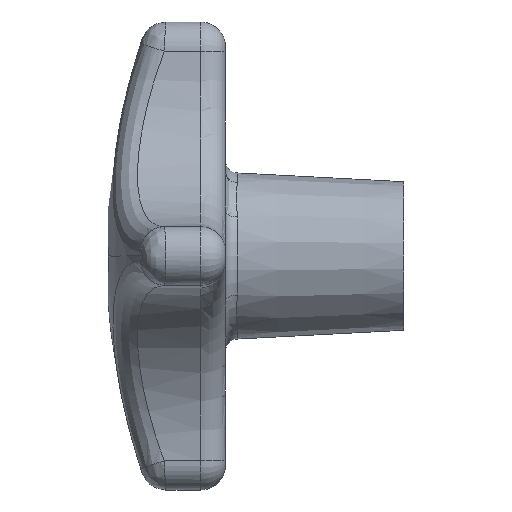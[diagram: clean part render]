
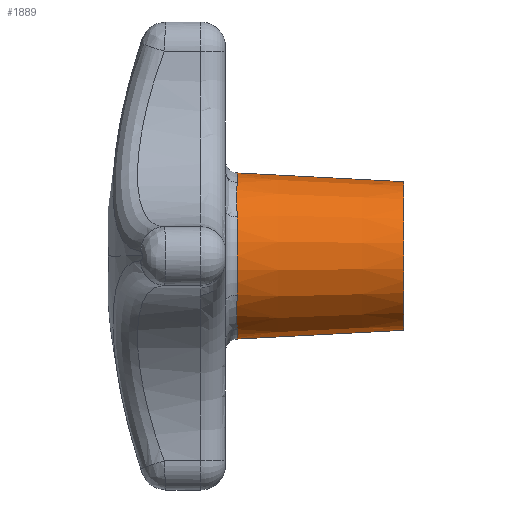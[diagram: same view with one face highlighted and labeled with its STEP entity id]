
A CAD part, left-side view. The second image highlights one B-rep face of the part: STEP entity #1889.
In plain terms, the highlighted conical face has half-angle 3 degrees and reference radius 10 mm.
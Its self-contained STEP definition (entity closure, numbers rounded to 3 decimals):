
#45 = EDGE_CURVE ( 'NONE', #518, #1778, #508, .T. ) ;
#66 = VECTOR ( 'NONE', #1463, 1000. ) ;
#81 = CARTESIAN_POINT ( 'NONE',  ( -5.256, -1.579, -9.862 ) ) ;
#101 = CARTESIAN_POINT ( 'NONE',  ( -7.091, -1.525, 8.658 ) ) ;
#113 = CARTESIAN_POINT ( 'NONE',  ( -5.746, -1.579, 9.601 ) ) ;
#136 = CIRCLE ( 'NONE', #669, 10. ) ;
#161 = AXIS2_PLACEMENT_3D ( 'NONE', #1229, #374, #553 ) ;
#175 = LINE ( 'NONE', #578, #1104 ) ;
#200 = ORIENTED_EDGE ( 'NONE', *, *, #2642, .T. ) ;
#212 = VERTEX_POINT ( 'NONE', #1695 ) ;
#236 = CARTESIAN_POINT ( 'NONE',  ( 0., -24., 10. ) ) ;
#309 = CARTESIAN_POINT ( 'NONE',  ( -6.211, -1.559, 9.308 ) ) ;
#313 = DIRECTION ( 'NONE',  ( 0., 0., -1. ) ) ;
#345 = ORIENTED_EDGE ( 'NONE', *, *, #2128, .T. ) ;
#355 = CARTESIAN_POINT ( 'NONE',  ( 0., -1.579, 11.175 ) ) ;
#357 = DIRECTION ( 'NONE',  ( 0., 0.999, 0.052 ) ) ;
#372 = VERTEX_POINT ( 'NONE', #236 ) ;
#374 = DIRECTION ( 'NONE',  ( 0., -1., 0. ) ) ;
#451 = EDGE_CURVE ( 'NONE', #1926, #212, #504, .T. ) ;
#476 = DIRECTION ( 'NONE',  ( 0., -1., 0. ) ) ;
#504 = CIRCLE ( 'NONE', #842, 11.175 ) ;
#508 = CIRCLE ( 'NONE', #601, 11.175 ) ;
#512 = CARTESIAN_POINT ( 'NONE',  ( -9.862, -1.579, 5.256 ) ) ;
#518 = VERTEX_POINT ( 'NONE', #355 ) ;
#519 = CARTESIAN_POINT ( 'NONE',  ( -5.256, -1.579, 9.862 ) ) ;
#529 = ORIENTED_EDGE ( 'NONE', *, *, #451, .T. ) ;
#545 = CARTESIAN_POINT ( 'NONE',  ( -5.256, -1.579, -9.862 ) ) ;
#553 = DIRECTION ( 'NONE',  ( 0., 0., -1. ) ) ;
#578 = CARTESIAN_POINT ( 'NONE',  ( 0., -24., 10. ) ) ;
#588 = AXIS2_PLACEMENT_3D ( 'NONE', #2866, #1913, #2776 ) ;
#601 = AXIS2_PLACEMENT_3D ( 'NONE', #2767, #2337, #313 ) ;
#606 = LINE ( 'NONE', #1914, #66 ) ;
#643 = EDGE_CURVE ( 'NONE', #2685, #2328, #1144, .T. ) ;
#669 = AXIS2_PLACEMENT_3D ( 'NONE', #846, #2022, #2676 ) ;
#681 = B_SPLINE_CURVE_WITH_KNOTS ( 'NONE', 3,
 ( #2332, #1416, #952, #2090, #972, #1183, #2364, #962, #2583, #2760, #1859, #81 ),
 .UNSPECIFIED., .F., .F.,
 ( 4, 2, 2, 2, 2, 4 ),
 ( 0., 0.002, 0.003, 0.004, 0.005, 0.007 ),
 .UNSPECIFIED. ) ;
#842 = AXIS2_PLACEMENT_3D ( 'NONE', #2515, #476, #1722 ) ;
#846 = CARTESIAN_POINT ( 'NONE',  ( 0., -24., 0. ) ) ;
#929 = B_SPLINE_CURVE_WITH_KNOTS ( 'NONE', 3,
 ( #519, #113, #309, #101, #1861, #2551, #1878, #1658, #2762, #2366, #2119, #512 ),
 .UNSPECIFIED., .F., .F.,
 ( 4, 2, 2, 2, 2, 4 ),
 ( 0., 0.002, 0.003, 0.004, 0.005, 0.007 ),
 .UNSPECIFIED. ) ;
#952 = CARTESIAN_POINT ( 'NONE',  ( -9.308, -1.559, -6.211 ) ) ;
#962 = CARTESIAN_POINT ( 'NONE',  ( -7.093, -1.525, -8.644 ) ) ;
#972 = CARTESIAN_POINT ( 'NONE',  ( -8.301, -1.512, -7.507 ) ) ;
#1104 = VECTOR ( 'NONE', #357, 1000. ) ;
#1144 = CIRCLE ( 'NONE', #161, 11.175 ) ;
#1183 = CARTESIAN_POINT ( 'NONE',  ( -7.716, -1.511, -8.093 ) ) ;
#1207 = EDGE_CURVE ( 'NONE', #1778, #2685, #929, .T. ) ;
#1229 = CARTESIAN_POINT ( 'NONE',  ( 0., -1.579, 0. ) ) ;
#1267 = EDGE_LOOP ( 'NONE', ( #2623, #345, #1608, #1378, #2554, #2226, #200, #529 ) ) ;
#1303 = EDGE_CURVE ( 'NONE', #372, #518, #175, .T. ) ;
#1371 = CARTESIAN_POINT ( 'NONE',  ( -5.256, -1.579, 9.862 ) ) ;
#1378 = ORIENTED_EDGE ( 'NONE', *, *, #45, .T. ) ;
#1416 = CARTESIAN_POINT ( 'NONE',  ( -9.601, -1.579, -5.746 ) ) ;
#1457 = FACE_OUTER_BOUND ( 'NONE', #1267, .T. ) ;
#1463 = DIRECTION ( 'NONE',  ( 0., 0.999, -0.052 ) ) ;
#1608 = ORIENTED_EDGE ( 'NONE', *, *, #1303, .T. ) ;
#1658 = CARTESIAN_POINT ( 'NONE',  ( -8.644, -1.525, 7.093 ) ) ;
#1695 = CARTESIAN_POINT ( 'NONE',  ( 0., -1.579, -11.175 ) ) ;
#1702 = CARTESIAN_POINT ( 'NONE',  ( -9.862, -1.579, -5.256 ) ) ;
#1722 = DIRECTION ( 'NONE',  ( 0., 0., -1. ) ) ;
#1778 = VERTEX_POINT ( 'NONE', #1371 ) ;
#1859 = CARTESIAN_POINT ( 'NONE',  ( -5.746, -1.579, -9.601 ) ) ;
#1861 = CARTESIAN_POINT ( 'NONE',  ( -7.507, -1.512, 8.301 ) ) ;
#1878 = CARTESIAN_POINT ( 'NONE',  ( -8.283, -1.514, 7.512 ) ) ;
#1889 = ADVANCED_FACE ( 'NONE', ( #1457 ), #2025, .T. ) ;
#1913 = DIRECTION ( 'NONE',  ( 0., 1., 0. ) ) ;
#1914 = CARTESIAN_POINT ( 'NONE',  ( 0., -24., -10. ) ) ;
#1926 = VERTEX_POINT ( 'NONE', #545 ) ;
#2022 = DIRECTION ( 'NONE',  ( 0., 1., 0. ) ) ;
#2025 = CONICAL_SURFACE ( 'NONE', #588, 10., 0.052 ) ;
#2090 = CARTESIAN_POINT ( 'NONE',  ( -8.658, -1.525, -7.091 ) ) ;
#2119 = CARTESIAN_POINT ( 'NONE',  ( -9.601, -1.579, 5.746 ) ) ;
#2128 = EDGE_CURVE ( 'NONE', #2699, #372, #136, .T. ) ;
#2165 = CARTESIAN_POINT ( 'NONE',  ( 0., -24., -10. ) ) ;
#2226 = ORIENTED_EDGE ( 'NONE', *, *, #643, .T. ) ;
#2328 = VERTEX_POINT ( 'NONE', #1702 ) ;
#2332 = CARTESIAN_POINT ( 'NONE',  ( -9.862, -1.579, -5.256 ) ) ;
#2337 = DIRECTION ( 'NONE',  ( 0., -1., 0. ) ) ;
#2342 = EDGE_CURVE ( 'NONE', #2699, #212, #606, .T. ) ;
#2364 = CARTESIAN_POINT ( 'NONE',  ( -7.512, -1.514, -8.283 ) ) ;
#2366 = CARTESIAN_POINT ( 'NONE',  ( -9.307, -1.559, 6.212 ) ) ;
#2423 = CARTESIAN_POINT ( 'NONE',  ( -9.862, -1.579, 5.256 ) ) ;
#2515 = CARTESIAN_POINT ( 'NONE',  ( 0., -1.579, 0. ) ) ;
#2551 = CARTESIAN_POINT ( 'NONE',  ( -8.093, -1.511, 7.716 ) ) ;
#2554 = ORIENTED_EDGE ( 'NONE', *, *, #1207, .T. ) ;
#2583 = CARTESIAN_POINT ( 'NONE',  ( -6.877, -1.533, -8.816 ) ) ;
#2623 = ORIENTED_EDGE ( 'NONE', *, *, #2342, .F. ) ;
#2642 = EDGE_CURVE ( 'NONE', #2328, #1926, #681, .T. ) ;
#2676 = DIRECTION ( 'NONE',  ( 0., 0., 1. ) ) ;
#2685 = VERTEX_POINT ( 'NONE', #2423 ) ;
#2699 = VERTEX_POINT ( 'NONE', #2165 ) ;
#2760 = CARTESIAN_POINT ( 'NONE',  ( -6.212, -1.559, -9.307 ) ) ;
#2762 = CARTESIAN_POINT ( 'NONE',  ( -8.816, -1.533, 6.877 ) ) ;
#2767 = CARTESIAN_POINT ( 'NONE',  ( 0., -1.579, 0. ) ) ;
#2776 = DIRECTION ( 'NONE',  ( 0., 0., 1. ) ) ;
#2866 = CARTESIAN_POINT ( 'NONE',  ( 0., -24., 0. ) ) ;
